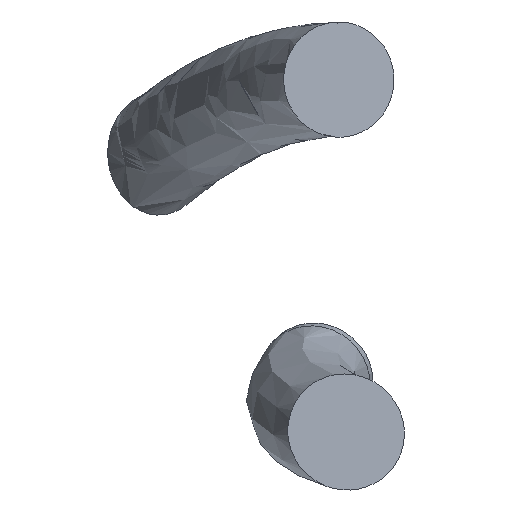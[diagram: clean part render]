
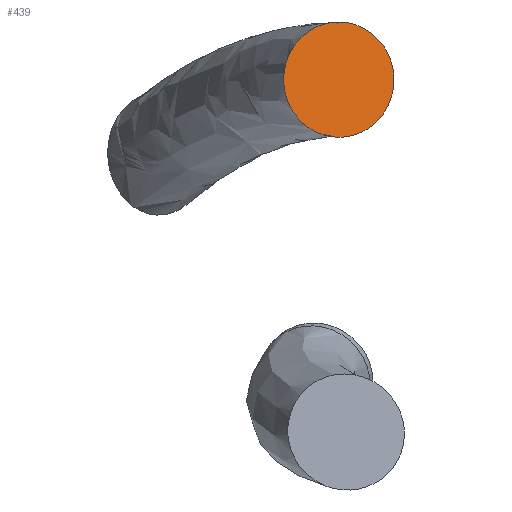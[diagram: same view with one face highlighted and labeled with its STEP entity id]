
A CAD part, top view. The second image highlights one B-rep face of the part: STEP entity #439.
In plain terms, the highlighted planar face has unit normal (0.292, 0, 0.956).
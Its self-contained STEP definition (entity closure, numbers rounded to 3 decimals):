
#4 = CARTESIAN_POINT ( 'NONE',  ( 422.093, -245.074, 960.014 ) ) ;
#9 = CARTESIAN_POINT ( 'NONE',  ( 422.093, -245.074, 960.014 ) ) ;
#32 = CARTESIAN_POINT ( 'NONE',  ( 412.442, -265.184, 962.965 ) ) ;
#55 = EDGE_LOOP ( 'NONE', ( #1000 ) ) ;
#82 = DIRECTION ( 'NONE',  ( 0.292, 0., 0.956 ) ) ;
#147 = FACE_OUTER_BOUND ( 'NONE', #55, .T. ) ;
#168 = DIRECTION ( 'NONE',  ( 0.292, 0., 0.956 ) ) ;
#174 = DIRECTION ( 'NONE',  ( -0.429, -0.894, 0.131 ) ) ;
#439 = ADVANCED_FACE ( 'NONE', ( #147 ), #576, .T. ) ;
#450 = CIRCLE ( 'NONE', #656, 22.5 ) ;
#475 = EDGE_CURVE ( 'NONE', #740, #740, #450, .T. ) ;
#494 = DIRECTION ( 'NONE',  ( -0.429, -0.894, 0.131 ) ) ;
#576 = PLANE ( 'NONE',  #1004 ) ;
#656 = AXIS2_PLACEMENT_3D ( 'NONE', #4, #168, #494 ) ;
#740 = VERTEX_POINT ( 'NONE', #32 ) ;
#1000 = ORIENTED_EDGE ( 'NONE', *, *, #475, .T. ) ;
#1004 = AXIS2_PLACEMENT_3D ( 'NONE', #9, #82, #174 ) ;
